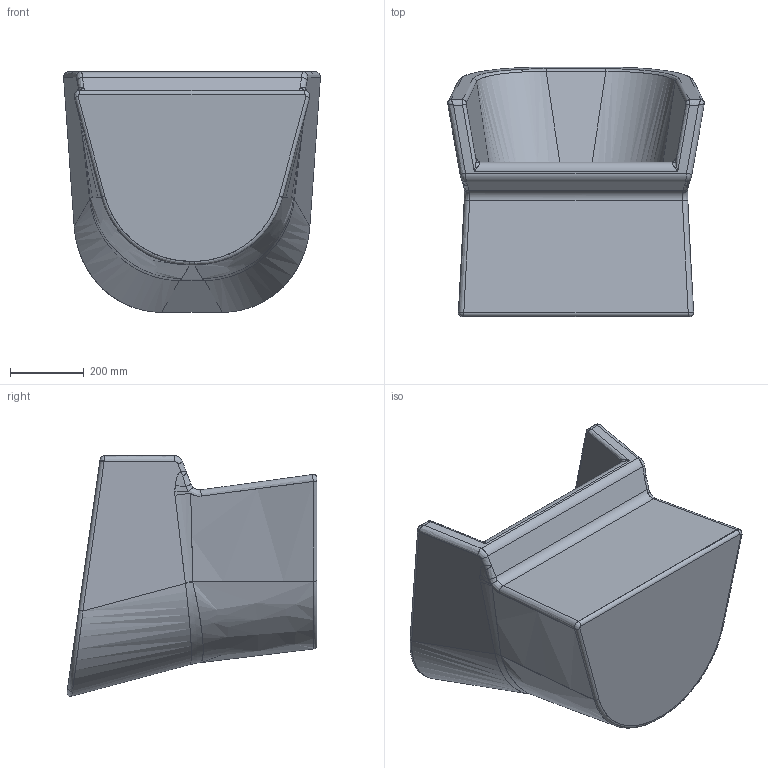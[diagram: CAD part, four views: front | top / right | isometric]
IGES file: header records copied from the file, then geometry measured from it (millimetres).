
Start section: SolidWorks IGES file using NURBS representation for surfaces
Global section: file name: G:\VICCARBE\PRODUCTOS\FAMILIAS 2D - 3D (PRODUCTOS VICCARBE)\3D (IGES + STL + DWG)\25-FEDELE\VICCARBE_Fedele_3D\01-IGES\VICCARBE_Fedele_armchair.IGS; native system: SolidWorks 2009; preprocessor: SolidWorks 2009; author: RUBEN; date: 110902.123225; units: millimetre
Bounding box: 697.79 x 679.14 x 654.12 mm (x, y, z)
Surface area: 2133691.2 mm2 (no closed solid volume)
Topology: 0 solids, 0 shells, 101 faces, 1038 edges, 1033 vertices
Faces by surface type: bspline 101
